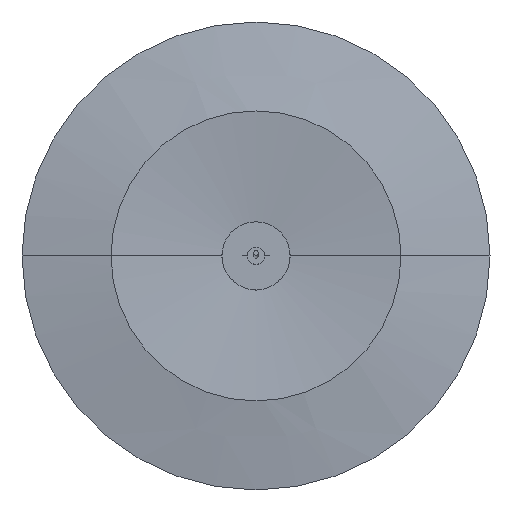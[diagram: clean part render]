
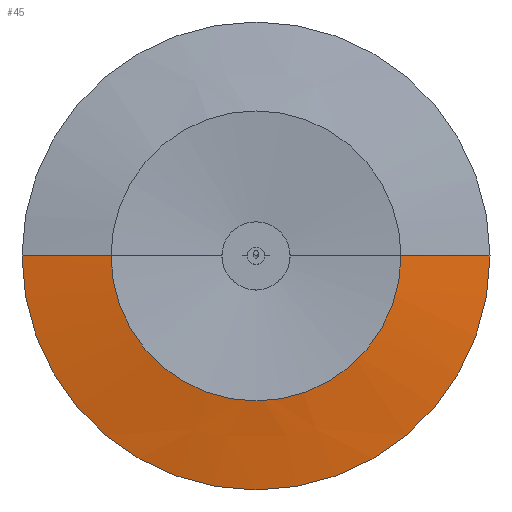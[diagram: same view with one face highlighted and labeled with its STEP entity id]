
A CAD part, top view. The second image highlights one B-rep face of the part: STEP entity #45.
In plain terms, the highlighted free-form (B-spline) face has degree [2, 2] with [5, 3] control points.
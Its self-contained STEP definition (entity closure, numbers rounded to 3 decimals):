
#45=ADVANCED_FACE('',(#76),#428,.T.);
#76=FACE_OUTER_BOUND('',#107,.T.);
#107=EDGE_LOOP('',(#193,#194,#195,#196));
#193=ORIENTED_EDGE('',*,*,#272,.T.);
#194=ORIENTED_EDGE('',*,*,#269,.T.);
#195=ORIENTED_EDGE('',*,*,#270,.T.);
#196=ORIENTED_EDGE('',*,*,#271,.F.);
#269=EDGE_CURVE('',#402,#403,#374,.T.);
#270=EDGE_CURVE('',#403,#405,#308,.T.);
#271=EDGE_CURVE('',#404,#405,#375,.T.);
#272=EDGE_CURVE('',#404,#402,#309,.T.);
#308=TRIMMED_CURVE($,#338,(#1217),(#1218),.T.,.CARTESIAN.);
#309=TRIMMED_CURVE($,#339,(#1223),(#1224),.T.,.CARTESIAN.);
#338=CIRCLE('',#563,274.372);
#339=CIRCLE('',#564,40.);
#374=(
BOUNDED_CURVE()
B_SPLINE_CURVE(2,(#1213,#1214,#1215),.UNSPECIFIED.,.F.,.F.)
B_SPLINE_CURVE_WITH_KNOTS((3,3),(0.,240.079),.UNSPECIFIED.)
CURVE()
GEOMETRIC_REPRESENTATION_ITEM()
RATIONAL_B_SPLINE_CURVE((1.,1.,1.))
REPRESENTATION_ITEM('')
);
#375=(
BOUNDED_CURVE()
B_SPLINE_CURVE(2,(#1219,#1220,#1221),.UNSPECIFIED.,.F.,.F.)
B_SPLINE_CURVE_WITH_KNOTS((3,3),(0.,240.079),.UNSPECIFIED.)
CURVE()
GEOMETRIC_REPRESENTATION_ITEM()
RATIONAL_B_SPLINE_CURVE((1.,1.,1.))
REPRESENTATION_ITEM('')
);
#402=VERTEX_POINT('',#1206);
#403=VERTEX_POINT('',#1207);
#404=VERTEX_POINT('',#1208);
#405=VERTEX_POINT('',#1209);
#428=(
BOUNDED_SURFACE()
B_SPLINE_SURFACE(2,2,((#1191,#1192,#1193),(#1194,#1195,#1196),(#1197,#1198,
#1199),(#1200,#1201,#1202),(#1203,#1204,#1205)),.UNSPECIFIED.,.F.,.F.,.F.)
B_SPLINE_SURFACE_WITH_KNOTS((3,2,3),(3,3),(861.964,1292.946,
1723.928),(0.,240.079),.UNSPECIFIED.)
GEOMETRIC_REPRESENTATION_ITEM()
RATIONAL_B_SPLINE_SURFACE(((1.,1.,1.),(0.707,0.707,
0.707),(1.,1.,1.),(0.707,0.707,0.707),
(1.,1.,1.)))
REPRESENTATION_ITEM('')
SURFACE()
);
#563=AXIS2_PLACEMENT_3D($,#1216,#634,#635);
#564=AXIS2_PLACEMENT_3D($,#1222,#636,#637);
#634=DIRECTION('',(0.,0.,-1.));
#635=DIRECTION('',(1.,0.,0.));
#636=DIRECTION('',(0.,0.,1.));
#637=DIRECTION('',(-1.,0.,0.));
#1191=CARTESIAN_POINT('',(-40.,0.,-49.8));
#1192=CARTESIAN_POINT('',(-154.278,0.,-68.593));
#1193=CARTESIAN_POINT('',(-274.371,0.,-88.341));
#1194=CARTESIAN_POINT('',(-40.,-40.,-49.8));
#1195=CARTESIAN_POINT('',(-154.278,-154.278,-68.593));
#1196=CARTESIAN_POINT('',(-274.371,-274.372,-88.341));
#1197=CARTESIAN_POINT('',(0.,-40.,-49.8));
#1198=CARTESIAN_POINT('',(0.,-154.278,-68.593));
#1199=CARTESIAN_POINT('',(0.,-274.372,-88.341));
#1200=CARTESIAN_POINT('',(40.,-40.,-49.8));
#1201=CARTESIAN_POINT('',(154.278,-154.278,-68.593));
#1202=CARTESIAN_POINT('',(274.372,-274.372,-88.341));
#1203=CARTESIAN_POINT('',(40.,0.,-49.8));
#1204=CARTESIAN_POINT('',(154.278,0.,-68.593));
#1205=CARTESIAN_POINT('',(274.372,0.,-88.341));
#1206=CARTESIAN_POINT('',(40.,0.,-49.8));
#1207=CARTESIAN_POINT('',(274.372,0.,-88.341));
#1208=CARTESIAN_POINT('',(-40.,0.,-49.8));
#1209=CARTESIAN_POINT('',(-274.371,0.,-88.341));
#1213=CARTESIAN_POINT('',(40.,0.,-49.8));
#1214=CARTESIAN_POINT('',(154.278,0.,-68.593));
#1215=CARTESIAN_POINT('',(274.372,0.,-88.341));
#1216=CARTESIAN_POINT('',(0.,0.,-88.341));
#1217=CARTESIAN_POINT('',(274.372,0.,-88.341));
#1218=CARTESIAN_POINT('',(-274.371,0.,-88.341));
#1219=CARTESIAN_POINT('',(-40.,0.,-49.8));
#1220=CARTESIAN_POINT('',(-154.278,0.,-68.593));
#1221=CARTESIAN_POINT('',(-274.371,0.,-88.341));
#1222=CARTESIAN_POINT('',(0.,0.,-49.8));
#1223=CARTESIAN_POINT('',(-40.,0.,-49.8));
#1224=CARTESIAN_POINT('',(40.,0.,-49.8));
